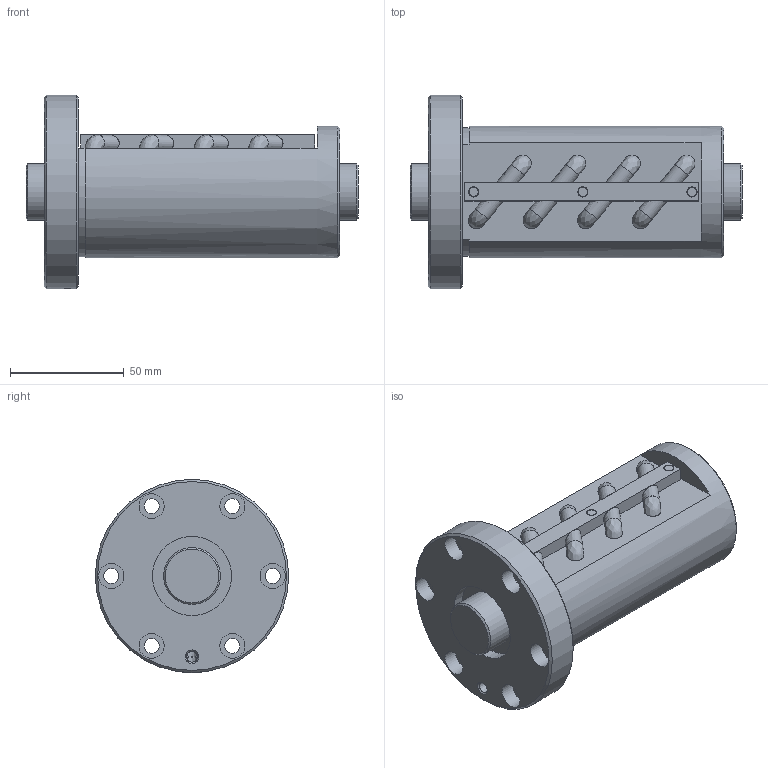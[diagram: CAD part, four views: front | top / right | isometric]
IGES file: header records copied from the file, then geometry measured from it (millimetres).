
Start section: Data from Parasolid IGES Translator 26.0.171, Copyright(c) 2006 Siemens PLM Software. All Rights Reserved.
Global section: file name: BIF2508V-10RRG0+146LC0_000.igs; native system: By Siemens PLM Incorporated; preprocessor: XPlus GENERIC/IGES 26.0.171; author: Noname; organization: Noname; date: 20240715.081746; units: millimetre
Bounding box: 146 x 85 x 85 mm (x, y, z)
Surface area: 62607.2 mm2 (no closed solid volume)
Topology: 0 solids, 0 shells, 115 faces, 547 edges, 512 vertices
Faces by surface type: revolution 62, extrusion 53
